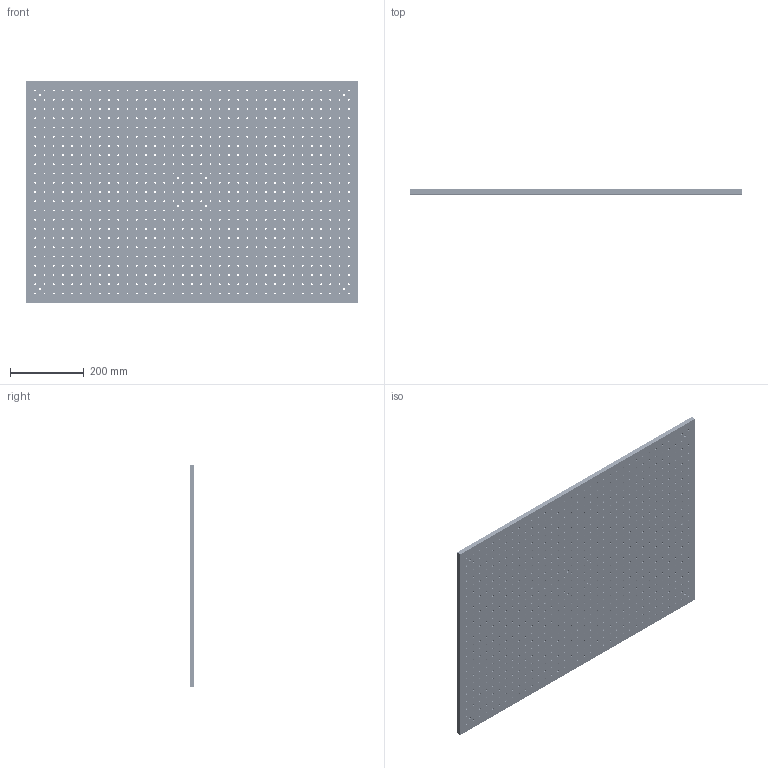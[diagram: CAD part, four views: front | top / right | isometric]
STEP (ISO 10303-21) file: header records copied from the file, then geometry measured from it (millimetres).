
FILE_DESCRIPTION (( 'STEP AP203' ), '1' );
FILE_NAME ('OTSB6090-13(AP203).STEP', '2022-02-28T09:23:25', ( '' ), ( '' ), 'SwSTEP 2.0', 'SolidWorks 2021', '' );
FILE_SCHEMA (( 'CONFIG_CONTROL_DESIGN' ));
Length unit declared in the file: millimetre
Products named in the file (1): OTSB6090-13(AP203)
Bounding box: 900 x 13.05 x 600 mm (x, y, z)
Volume: 6807366.6 mm3; surface area: 1254781.7 mm2
Topology: 11 solids, 11 shells, 1816 faces, 5358 edges, 3572 vertices
Faces by surface type: cylinder 1642, plane 174
Entity records: 65835 total; most frequent: DIRECTION 12276, CARTESIAN_POINT 10747, ORIENTED_EDGE 10716, EDGE_CURVE 5358, AXIS2_PLACEMENT_3D 5101, VERTEX_POINT 3572, EDGE_LOOP 3450, CIRCLE 3284
